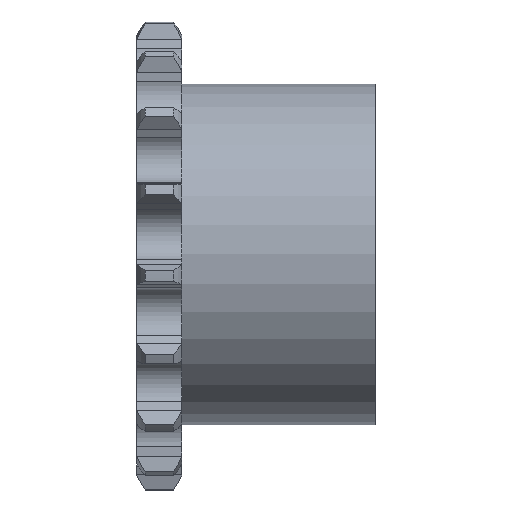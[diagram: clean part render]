
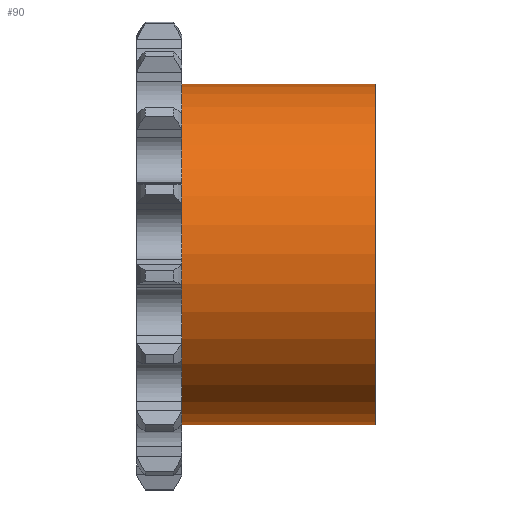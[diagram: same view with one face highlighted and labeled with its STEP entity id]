
A CAD part, top view. The second image highlights one B-rep face of the part: STEP entity #90.
In plain terms, the highlighted cylindrical face has radius 20 mm (diameter 40 mm), a full revolution.
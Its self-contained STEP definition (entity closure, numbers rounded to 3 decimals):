
#90 = ADVANCED_FACE( '', ( #250, #251 ), #252, .T. );
#250 = FACE_OUTER_BOUND( '', #537, .T. );
#251 = FACE_OUTER_BOUND( '', #538, .T. );
#252 = CYLINDRICAL_SURFACE( '', #539, 20. );
#537 = EDGE_LOOP( '', ( #957 ) );
#538 = EDGE_LOOP( '', ( #958 ) );
#539 = AXIS2_PLACEMENT_3D( '', #959, #960, #961 );
#957 = ORIENTED_EDGE( '', *, *, #2006, .T. );
#958 = ORIENTED_EDGE( '', *, *, #2005, .F. );
#959 = CARTESIAN_POINT( '', ( 200., 0., 0. ) );
#960 = DIRECTION( '', ( -1., 0., 0. ) );
#961 = DIRECTION( '', ( 0., 0., -1. ) );
#2005 = EDGE_CURVE( '', #2440, #2440, #2441, .T. );
#2006 = EDGE_CURVE( '', #2442, #2442, #2443, .T. );
#2440 = VERTEX_POINT( '', #3080 );
#2441 = CIRCLE( '', #3081, 20. );
#2442 = VERTEX_POINT( '', #3082 );
#2443 = CIRCLE( '', #3083, 20. );
#3080 = CARTESIAN_POINT( '', ( 28., 0., -20. ) );
#3081 = AXIS2_PLACEMENT_3D( '', #3902, #3903, #3904 );
#3082 = CARTESIAN_POINT( '', ( 5.3, 0., -20. ) );
#3083 = AXIS2_PLACEMENT_3D( '', #3905, #3906, #3907 );
#3902 = CARTESIAN_POINT( '', ( 28., 0., 0. ) );
#3903 = DIRECTION( '', ( 1., 0., 0. ) );
#3904 = DIRECTION( '', ( 0., 0., -1. ) );
#3905 = CARTESIAN_POINT( '', ( 5.3, 0., 0. ) );
#3906 = DIRECTION( '', ( 1., 0., 0. ) );
#3907 = DIRECTION( '', ( 0., 0., -1. ) );
